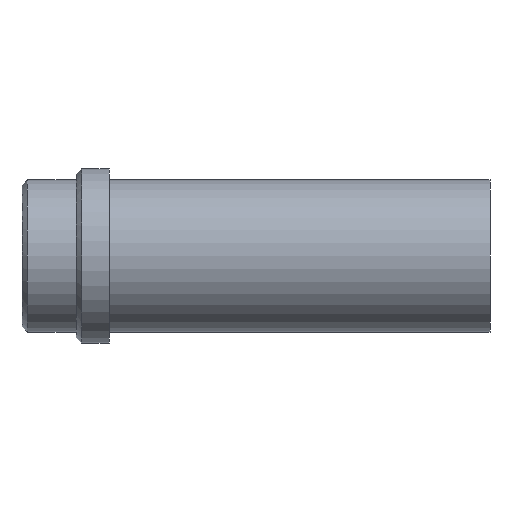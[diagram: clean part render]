
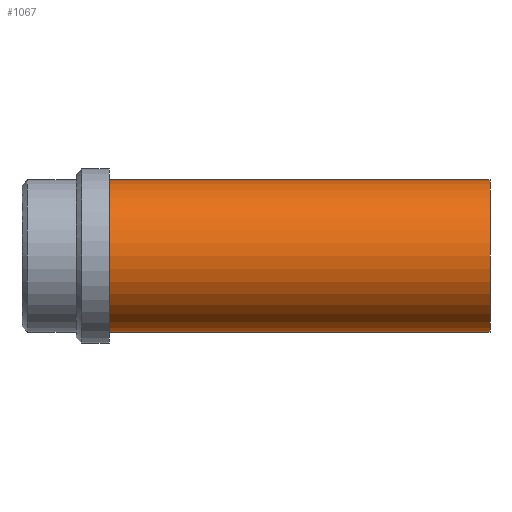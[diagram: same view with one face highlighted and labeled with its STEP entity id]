
A CAD part, front view. The second image highlights one B-rep face of the part: STEP entity #1067.
In plain terms, the highlighted cylindrical face has radius 14 mm (diameter 28 mm), a partial arc.
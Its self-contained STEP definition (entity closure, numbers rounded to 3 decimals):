
#953=CARTESIAN_POINT('Vertex',(0.,0.,-14.)) ;
#958=CARTESIAN_POINT('Axis2P3D Location',(0.,0.,0.)) ;
#962=CARTESIAN_POINT('Vertex',(0.,-14.,0.)) ;
#965=CARTESIAN_POINT('Axis2P3D Location',(0.,0.,0.)) ;
#969=CARTESIAN_POINT('Vertex',(0.,0.,14.)) ;
#995=CARTESIAN_POINT('Vertex',(70.,0.,14.)) ;
#998=CARTESIAN_POINT('Axis2P3D Location',(70.,0.,0.)) ;
#1002=CARTESIAN_POINT('Vertex',(70.,-14.,0.)) ;
#1005=CARTESIAN_POINT('Axis2P3D Location',(70.,0.,0.)) ;
#1009=CARTESIAN_POINT('Vertex',(70.,0.,-14.)) ;
#1035=CARTESIAN_POINT('Line Origine',(70.,0.,14.)) ;
#1040=CARTESIAN_POINT('Line Origine',(70.,0.,-14.)) ;
#1054=CARTESIAN_POINT('Axis2P3D Location',(70.,0.,0.)) ;
#959=DIRECTION('Axis2P3D Direction',(1.,0.,-0.)) ;
#966=DIRECTION('Axis2P3D Direction',(1.,0.,-0.)) ;
#999=DIRECTION('Axis2P3D Direction',(1.,0.,-0.)) ;
#1006=DIRECTION('Axis2P3D Direction',(1.,0.,-0.)) ;
#1036=DIRECTION('Vector Direction',(-1.,0.,0.)) ;
#1041=DIRECTION('Vector Direction',(-1.,0.,0.)) ;
#1055=DIRECTION('Axis2P3D Direction',(-1.,-0.,-0.)) ;
#1056=DIRECTION('Axis2P3D XDirection',(0.,0.,-1.)) ;
#960=AXIS2_PLACEMENT_3D('Circle Axis2P3D',#958,#959,$) ;
#967=AXIS2_PLACEMENT_3D('Circle Axis2P3D',#965,#966,$) ;
#1000=AXIS2_PLACEMENT_3D('Circle Axis2P3D',#998,#999,$) ;
#1007=AXIS2_PLACEMENT_3D('Circle Axis2P3D',#1005,#1006,$) ;
#1057=AXIS2_PLACEMENT_3D('Cylinder Axis2P3D',#1054,#1055,#1056) ;
#1060=ORIENTED_EDGE('',*,*,#1044,.T.) ;
#1061=ORIENTED_EDGE('',*,*,#1011,.F.) ;
#1062=ORIENTED_EDGE('',*,*,#1004,.F.) ;
#1063=ORIENTED_EDGE('',*,*,#1039,.T.) ;
#1064=ORIENTED_EDGE('',*,*,#971,.T.) ;
#1065=ORIENTED_EDGE('',*,*,#964,.T.) ;
#1037=VECTOR('Line Direction',#1036,1.) ;
#1042=VECTOR('Line Direction',#1041,1.) ;
#1067=ADVANCED_FACE('358-20X86',(#1066),#1058,.T.) ;
#961=CIRCLE('generated circle',#960,14.) ;
#968=CIRCLE('generated circle',#967,14.) ;
#1001=CIRCLE('generated circle',#1000,14.) ;
#1008=CIRCLE('generated circle',#1007,14.) ;
#1058=CYLINDRICAL_SURFACE('generated cylinder',#1057,14.) ;
#964=EDGE_CURVE('',#963,#954,#961,.T.) ;
#971=EDGE_CURVE('',#970,#963,#968,.T.) ;
#1004=EDGE_CURVE('',#996,#1003,#1001,.T.) ;
#1011=EDGE_CURVE('',#1003,#1010,#1008,.T.) ;
#1039=EDGE_CURVE('',#996,#970,#1038,.T.) ;
#1044=EDGE_CURVE('',#954,#1010,#1043,.F.) ;
#1059=EDGE_LOOP('',(#1060,#1061,#1062,#1063,#1064,#1065)) ;
#1066=FACE_OUTER_BOUND('',#1059,.T.) ;
#1038=LINE('Line',#1035,#1037) ;
#1043=LINE('Line',#1040,#1042) ;
#954=VERTEX_POINT('',#953) ;
#963=VERTEX_POINT('',#962) ;
#970=VERTEX_POINT('',#969) ;
#996=VERTEX_POINT('',#995) ;
#1003=VERTEX_POINT('',#1002) ;
#1010=VERTEX_POINT('',#1009) ;
